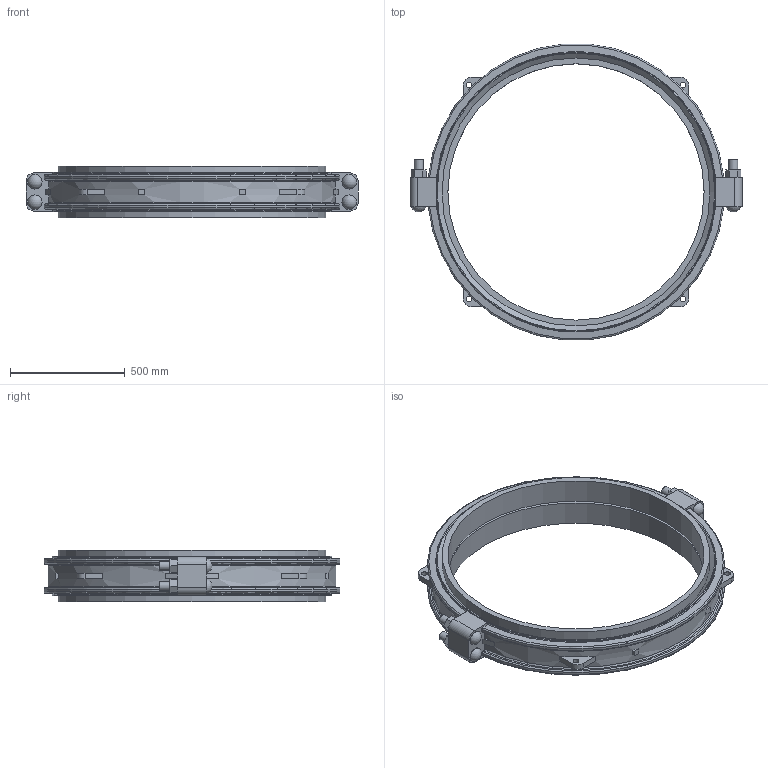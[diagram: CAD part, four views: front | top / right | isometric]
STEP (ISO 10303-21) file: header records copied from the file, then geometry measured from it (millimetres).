
FILE_DESCRIPTION(/* description */ ('VIC COUPLING FLEX STYLE W77 AGS VIC-RING ','CAx-IF Rec.Pracs.---Representation and Presentation of Product Manufacturing Information (PMI)---4.0---2014-10-13'),/* implementation_level */ '2;1');
FILE_NAME(/* name */ 'C:\Users\Vjadhav\AppData\Roaming\Autodesk\ApplicationPlugins\Victaulic.Temp\A52\Victaulic_Vic-Ring_Coupling Flexible_Style W77 (AGR)_46 (1150).stp',/* time_stamp */ '2021-12-20T11:06:16+06:00',/* author */ ('Vjadhav'),/* organization */ ('Victaulic'),/* preprocessor_version */ 'ST-DEVELOPER v17.2',/* originating_system */ 'Autodesk Inventor 2019',/* authorisation */ '');
FILE_SCHEMA (('AP242_MANAGED_MODEL_BASED_3D_ENGINEERING_MIM_LF { 1 0 10303 442 1 1 4 }'));
Length unit declared in the file: inch
Products named in the file (3): W77 VR-46.0; W77 VR-46.0_1; W77 VR-46.0_2
Assembly tree (3 placements, depth 2):
  W77 VR-46.0
    W77 VR-46.0_1
    W77 VR-46.0_2  x2
Bounding box: 1447.8 x 1290.54 x 226.06 mm (x, y, z)
Volume: 54954724.3 mm3; surface area: 4089405.6 mm2
Topology: 3 solids, 7 shells, 187 faces, 491 edges, 340 vertices
Faces by surface type: plane 110, cylinder 47, torus 16, cone 10, sphere 4
Full cylindrical faces by diameter (mm): 25.4 x4, 38.1 x8, 63.5 x4, 1117.6 x2, 1149.35 x1, 1168.4 x4, 1219.2 x2
Entity records: 6491 total; most frequent: CARTESIAN_POINT 1514, DIRECTION 987, ORIENTED_EDGE 962, EDGE_CURVE 481, AXIS2_PLACEMENT_3D 365, VERTEX_POINT 332, LINE 257, VECTOR 257
